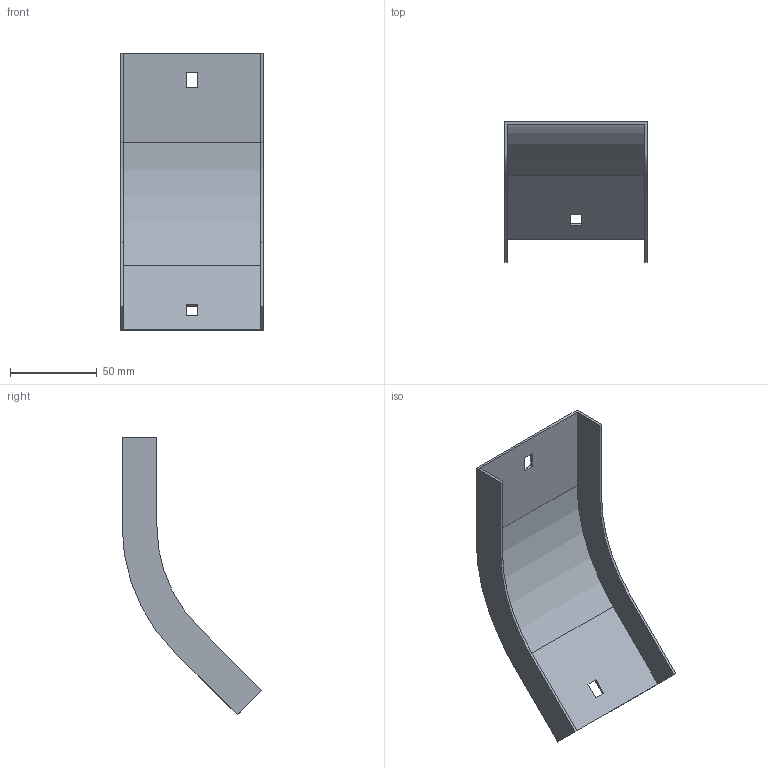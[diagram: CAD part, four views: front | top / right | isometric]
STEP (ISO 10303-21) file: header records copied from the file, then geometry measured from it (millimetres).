
FILE_DESCRIPTION (( 'STEP AP214' ), '1' );
FILE_NAME ('34G1B075.step', '2025-02-21T12:42:42', ( '' ), ( '' ), 'SwSTEP 2.0', 'SolidWorks 2023', '' );
FILE_SCHEMA (( 'AUTOMOTIVE_DESIGN' ));
Length unit declared in the file: millimetre
Products named in the file (1): 34G1B075
Bounding box: 82 x 80.32 x 159.76 mm (x, y, z)
Volume: 31912.9 mm3; surface area: 43503.6 mm2
Topology: 1 solids, 1 shells, 26 faces, 72 edges, 48 vertices
Faces by surface type: plane 22, cylinder 4
Entity records: 855 total; most frequent: CARTESIAN_POINT 147, ORIENTED_EDGE 144, DIRECTION 134, EDGE_CURVE 72, LINE 64, VECTOR 64, VERTEX_POINT 48, AXIS2_PLACEMENT_3D 35
